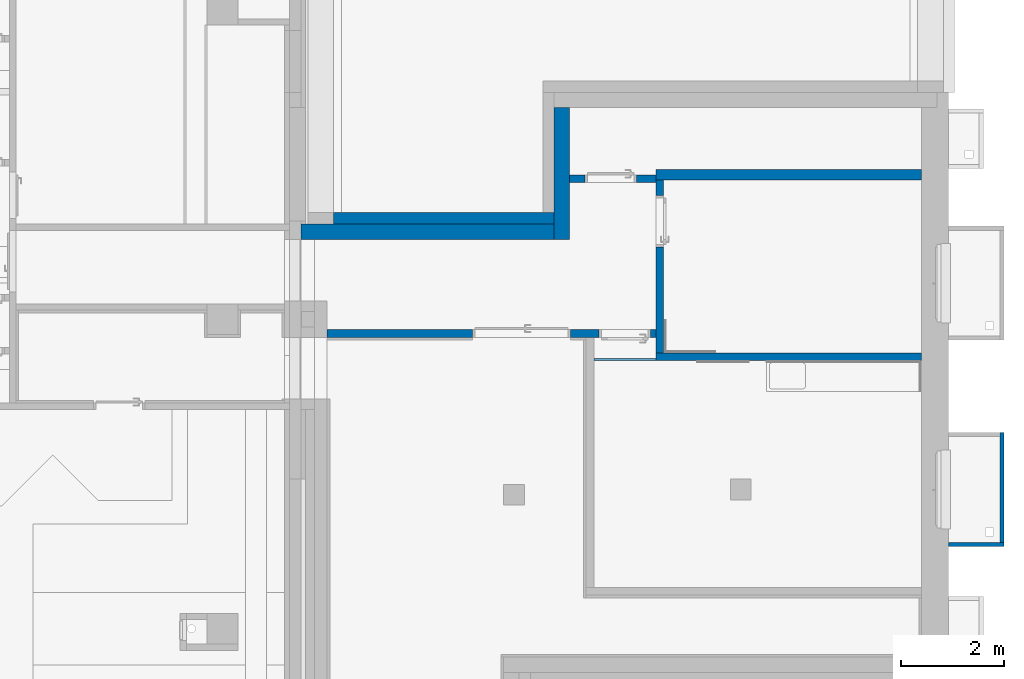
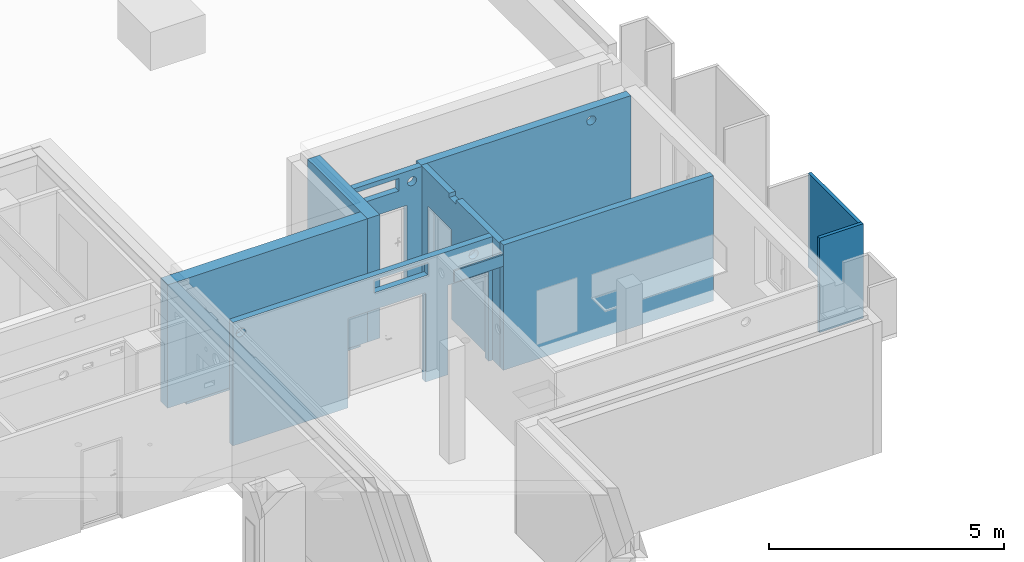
# One storey, part 44 of 84: 11 walls, 12 openings.
"""IFC4 building model written with IfcOpenShell, lengths in metres."""

from ifc_helpers import new_model, entity, si_unit, converted_unit, derived_unit, frame, frame_2d, origin, origin_with_axes, place, context, subcontext, project, spatial, polyline, rectangle, outline, extrude, material, layer, layer_set, layer_usage, element, save


model = new_model("IFC4")

# Units and contexts
model_context = context("Model", 3, precision=1e-05, world=origin())
body_context = subcontext(model_context, "Body", "Model", "MODEL_VIEW")
ifc_project = project(units=[si_unit("LENGTHUNIT", "METRE"), si_unit("AREAUNIT", "SQUARE_METRE"), si_unit("VOLUMEUNIT", "CUBIC_METRE"), si_unit("MASSUNIT", "GRAM", prefix="KILO"), converted_unit("PLANEANGLEUNIT", "DEGREE", entity("IfcPlaneAngleMeasure", 0.0174532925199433), si_unit("PLANEANGLEUNIT", "RADIAN"), dimensions=[0, 0, 0, 0, 0, 0, 0]), derived_unit("THERMALTRANSMITTANCEUNIT", [(si_unit("POWERUNIT", "WATT"), 1), (si_unit("THERMODYNAMICTEMPERATUREUNIT", "KELVIN"), -1), (si_unit("LENGTHUNIT", "METRE"), -2)]), derived_unit("VOLUMETRICFLOWRATEUNIT", [(si_unit("LENGTHUNIT", "METRE"), 3), (converted_unit("TIMEUNIT", "hour", entity("IfcTimeMeasure", 3600.0), si_unit("TIMEUNIT", "SECOND"), dimensions=[0, 0, 1, 0, 0, 0, 0]), -1), (si_unit("LENGTHUNIT", "METRE"), -1)])], contexts=[model_context])

# Site, building, storey
site_placement = place(None, origin())
site = spatial("IfcSite", under=ifc_project, at=site_placement, Name="3. ASŘ", CompositionType="ELEMENT")
building_placement = place(site_placement, origin())
building = spatial("IfcBuilding", under=site, at=building_placement, Name="Pavilon C", CompositionType="ELEMENT")
storey_placement = place(building_placement, frame((0.0, 0.0, -3.3)))
storey = spatial("IfcBuildingStorey", under=building, at=storey_placement, Name="Půdorys 1.PP", CompositionType="ELEMENT", Elevation=-3.3)

# Wall
ifc_material_1 = material(Name="PERIMETR")
ifc_layer_1 = layer(ifc_material_1, 0.22)
ifc_layer_set_1 = layer_set([ifc_layer_1])
ifc_layer_usage_1 = layer_usage(ifc_layer_set_1, "AXIS2", "POSITIVE", 0.0)
wall_1_placement = place(storey_placement, frame((52.105, 15.05, -0.6)))
element("IfcWall", 1, at=wall_1_placement, inside=storey, material=ifc_layer_usage_1, Name="PERIMETR", context=body_context, shape_type="SweptSolid", body=[
    extrude(rectangle(XDim=4.27388830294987, YDim=0.22, at=frame_2d((2.13694415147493, 0.11), x_axis=(1.0, 0.0))), origin_with_axes(), (0.0, 0.0, 1.0), 3.3),
])

# Wall, opening
ifc_material_2 = material(Name="ZELEZOBETONOVÁ KCE")
ifc_layer_2 = layer(ifc_material_2, 0.2)
ifc_layer_set_2 = layer_set([ifc_layer_2])
ifc_layer_usage_2 = layer_usage(ifc_layer_set_2, "AXIS2", "POSITIVE", 0.0)
wall_2_placement = place(storey_placement, frame((58.35, 15.9, -0.3)))
wall_2 = element("IfcWall", 2, at=wall_2_placement, inside=storey, material=ifc_layer_usage_2, Name="ZELEZOBETONOVÁ KCE", context=body_context, shape_type="SweptSolid", body=[
    extrude(rectangle(XDim=5.15, YDim=0.2, at=frame_2d((2.575, 0.1), x_axis=(1.0, 0.0))), origin_with_axes(), (0.0, 0.0, 1.0), 3.2),
])
opening_1_placement = place(wall_2_placement, frame((4.0665263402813, 0.0, 2.7875), z_axis=(0.0, 1.0, 0.0), x_axis=(0.0, 0.0, 1.0)))
element("IfcOpeningElement", 3, at=opening_1_placement, cuts=wall_2, Name="VZT", ObjectType="Opening", context=body_context, shape_type="SweptSolid", body=[
    extrude(outline(polyline([(0.11249999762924, 0.0), (0.100740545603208, 0.000616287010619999), (0.0891099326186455, 0.00245839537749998), (0.0777355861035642, 0.00550614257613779), (0.0667421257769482, 0.00972613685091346), (0.0562499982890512, 0.0150721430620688), (0.0463741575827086, 0.0214855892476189), (0.0372228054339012, 0.0288962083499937), (0.0288962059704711, 0.037222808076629), (0.0214855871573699, 0.0463741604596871), (0.0150721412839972, 0.0562500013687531), (0.00972613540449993, 0.0667421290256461), (0.00550614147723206, 0.0777355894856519), (0.00245839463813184, 0.0891099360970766), (0.00061628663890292, 0.100740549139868), (0.0, 0.112500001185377), (0.000616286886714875, 0.124259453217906), (0.00245839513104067, 0.13589006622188), (0.00550614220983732, 0.147264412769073), (0.00972613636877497, 0.158257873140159), (0.0150721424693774, 0.168750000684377), (0.0214855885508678, 0.178625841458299), (0.0288962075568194, 0.187777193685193), (0.0372228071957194, 0.196103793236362), (0.0463741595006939, 0.203514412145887), (0.0562500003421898, 0.209927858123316), (0.0667421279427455, 0.215273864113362), (0.0777355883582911, 0.219493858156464), (0.089109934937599, 0.22254160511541), (0.100740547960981, 0.224383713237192), (0.1125, 0.225), (0.124259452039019, 0.224383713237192), (0.135890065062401, 0.22254160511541), (0.147264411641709, 0.219493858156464), (0.158257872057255, 0.215273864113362), (0.16874999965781, 0.209927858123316), (0.178625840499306, 0.203514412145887), (0.187777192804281, 0.196103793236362), (0.196103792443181, 0.187777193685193), (0.203514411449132, 0.178625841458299), (0.209927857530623, 0.168750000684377), (0.215273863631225, 0.158257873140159), (0.219493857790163, 0.147264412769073), (0.222541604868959, 0.13589006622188), (0.224383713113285, 0.124259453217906), (0.225, 0.112500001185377), (0.224383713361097, 0.100740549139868), (0.222541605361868, 0.0891099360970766), (0.219493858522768, 0.0777355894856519), (0.2152738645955, 0.0667421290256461), (0.209927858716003, 0.0562500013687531), (0.20351441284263, 0.0463741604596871), (0.196103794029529, 0.037222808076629), (0.187777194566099, 0.0288962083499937), (0.178625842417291, 0.0214855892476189), (0.168750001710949, 0.0150721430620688), (0.158257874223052, 0.00972613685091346), (0.147264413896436, 0.00550614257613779), (0.135890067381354, 0.00245839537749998), (0.124259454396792, 0.000616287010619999), (0.11249999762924, 0.0)])), origin_with_axes(), (0.0, 0.0, 1.0), 0.2),
])

# Walls
ifc_material_3 = material(Name="ZELEZOBETONOVÁ KCE")
ifc_layer_3 = layer(ifc_material_3, 0.3)
ifc_layer_set_3 = layer_set([ifc_layer_3])
ifc_layer_usage_3 = layer_usage(ifc_layer_set_3, "AXIS2", "POSITIVE", 0.0)
wall_3_placement = place(storey_placement, frame((56.6788883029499, 14.75, -0.3), z_axis=(0.0, 0.0, 1.0), x_axis=(0.0, 1.0, 0.0)))
element("IfcWall", 4, at=wall_3_placement, inside=storey, material=ifc_layer_usage_3, Name="ZELEZOBETONOVÁ KCE", context=body_context, shape_type="SweptSolid", body=[
    extrude(rectangle(XDim=2.54999999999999, YDim=0.3, at=frame_2d((1.27499999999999, 0.15), x_axis=(1.0, 0.0))), origin_with_axes(), (0.0, 0.0, 1.0), 3.2),
])
ifc_material_4 = material(Name="POHLEDOVY BETON")
ifc_layer_4 = layer(ifc_material_4, 0.08)
ifc_layer_set_4 = layer_set([ifc_layer_4])
ifc_layer_usage_4 = layer_usage(ifc_layer_set_4, "AXIS2", "POSITIVE", 0.0)
wall_4_placement = place(storey_placement, frame((64.02, 8.79499999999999, 0.88)))
element("IfcWall", 5, at=wall_4_placement, inside=storey, material=ifc_layer_usage_4, Name="STĚNA ANGLICKÉHO DVORKU", context=body_context, shape_type="SweptSolid", body=[
    extrude(rectangle(XDim=1.08, YDim=0.08, at=frame_2d((0.54, 0.04), x_axis=(1.0, 0.0))), origin_with_axes(), (0.0, 0.0, 1.0), 2.45),
])
ifc_material_5 = material(Name="ZELEZOBETONOVÁ KCE")
ifc_layer_5 = layer(ifc_material_5, 0.3)
ifc_layer_set_5 = layer_set([ifc_layer_5])
ifc_layer_usage_5 = layer_usage(ifc_layer_set_5, "AXIS2", "POSITIVE", 0.0)
wall_5_placement = place(storey_placement, frame((51.475, 14.75, -0.3)))
element("IfcWall", 6, at=wall_5_placement, inside=storey, material=ifc_layer_usage_5, Name="ZELEZOBETONOVÁ KCE", context=body_context, shape_type="SweptSolid", body=[
    extrude(rectangle(XDim=4.90388830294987, YDim=0.3, at=frame_2d((2.45194415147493, 0.15), x_axis=(1.0, 0.0))), origin_with_axes(), (0.0, 0.0, 1.0), 3.2),
])
ifc_material_6 = material(Name="POHLEDOVY BETON")
ifc_layer_6 = layer(ifc_material_6, 0.08)
ifc_layer_set_6 = layer_set([ifc_layer_6])
ifc_layer_usage_6 = layer_usage(ifc_layer_set_6, "AXIS2", "POSITIVE", 0.0)
wall_6_placement = place(storey_placement, frame((65.1, 8.87499999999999, 0.88), z_axis=(0.0, 0.0, 1.0), x_axis=(0.0, 1.0, 0.0)))
element("IfcWall", 7, at=wall_6_placement, inside=storey, material=ifc_layer_usage_6, Name="STĚNA ANGLICKÉHO DVORKU", context=body_context, shape_type="SweptSolid", body=[
    extrude(rectangle(XDim=2.13, YDim=0.08, at=frame_2d((1.065, 0.04), x_axis=(1.0, 0.0))), origin_with_axes(), (0.0, 0.0, 1.0), 2.45),
])
ifc_material_7 = material(Name="SDK SVISLA CAST PODHLEDU")
ifc_layer_7 = layer(ifc_material_7, 0.04)
ifc_layer_set_7 = layer_set([ifc_layer_7])
ifc_layer_usage_7 = layer_usage(ifc_layer_set_7, "AXIS2", "POSITIVE", 0.0)
wall_7_placement = place(storey_placement, frame((57.15, 12.4, 2.4), z_axis=(0.0, 0.0, 1.0), x_axis=(1.0, 1.51582450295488e-15, 0.0)))
element("IfcWall", 8, at=wall_7_placement, inside=storey, material=ifc_layer_usage_7, Name="SDK SVISLA CAST PODHLEDU", context=body_context, shape_type="SweptSolid", body=[
    extrude(rectangle(XDim=1.2, YDim=0.04, at=frame_2d((0.6, 0.02), x_axis=(1.0, 0.0))), origin_with_axes(), (0.0, 0.0, 1.0), 0.3),
])
ifc_material_8 = material(Name="SDK - 1 KCE + DVOJITÉ OPLÁŠTĚNÍ")
ifc_layer_8 = layer(ifc_material_8, 0.15)
ifc_layer_set_8 = layer_set([ifc_layer_8])
ifc_layer_usage_8 = layer_usage(ifc_layer_set_8, "AXIS2", "POSITIVE", 0.0)
wall_8_placement = place(storey_placement, frame((63.5, 12.55, -0.3), z_axis=(0.0, 0.0, 1.0), x_axis=(-1.0, 0.0, 0.0)))
element("IfcWall", 9, at=wall_8_placement, inside=storey, material=ifc_layer_usage_8, Name="SDK - 1 KCE + DVOJITÉ OPLÁŠTĚNÍ", context=body_context, shape_type="SweptSolid", body=[
    extrude(rectangle(XDim=5.15, YDim=0.15, at=frame_2d((2.575, 0.075), x_axis=(1.0, 0.0))), origin_with_axes(), (0.0, 0.0, 1.0), 3.25),
])

# Wall, openings
ifc_material_9 = material(Name="SDK - 1 KCE + DVOJITÉ OPLÁŠTĚNÍ")
ifc_layer_9 = layer(ifc_material_9, 0.15)
ifc_layer_set_9 = layer_set([ifc_layer_9])
ifc_layer_usage_9 = layer_usage(ifc_layer_set_9, "AXIS2", "POSITIVE", 0.0)
wall_9_placement = place(storey_placement, frame((58.5, 12.55, -0.3), z_axis=(0.0, 0.0, 1.0), x_axis=(0.0, 1.0, 0.0)))
wall_9 = element("IfcWall", 10, at=wall_9_placement, inside=storey, material=ifc_layer_usage_9, Name="SDK - 1 KCE + DVOJITÉ OPLÁŠTĚNÍ", context=body_context, shape_type="SweptSolid", body=[
    extrude(rectangle(XDim=3.35, YDim=0.15, at=frame_2d((1.675, 0.075), x_axis=(1.0, 0.0))), origin_with_axes(), (0.0, 0.0, 1.0), 3.2),
])
opening_2_placement = place(wall_9_placement, frame((2.05, 0.0, 0.0), z_axis=(0.0, 1.0, 0.0), x_axis=(0.0, 0.0, 1.0)))
element("IfcOpeningElement", 11, at=opening_2_placement, cuts=wall_9, Name="Dveřní otvor", ObjectType="Opening", context=body_context, shape_type="SweptSolid", body=[
    extrude(outline(polyline([(0.0, 1.0), (2.32, 1.0), (2.32, 0.0), (0.0, 0.0), (0.0, 1.0)])), origin_with_axes(), (0.0, 0.0, 1.0), 0.15),
])
opening_3_placement = place(wall_9_placement, frame((0.707526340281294, 0.15, 2.7875), z_axis=(0.0, -1.0, 0.0), x_axis=(0.0, 0.0, 1.0)))
element("IfcOpeningElement", 12, at=opening_3_placement, cuts=wall_9, Name="VZT", ObjectType="Opening", context=body_context, shape_type="SweptSolid", body=[
    extrude(outline(polyline([(0.112499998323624, 0.0), (0.100740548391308, 0.000616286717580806), (0.0891099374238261, 0.00245839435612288), (0.0777355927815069, 0.00550614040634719), (0.0667421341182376, 0.00972613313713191), (0.0562500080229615, 0.0150721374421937), (0.0463741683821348, 0.0214855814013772), (0.0372228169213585, 0.0288961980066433), (0.0288962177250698, 0.0372227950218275), (0.0214855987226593, 0.0463741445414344), (0.015072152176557, 0.0562499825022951), (0.00972614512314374, 0.0667421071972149), (0.00550614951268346, 0.0777355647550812), (0.00245840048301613, 0.0891099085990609), (0.00061628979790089, 0.100740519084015), (0.0, 0.112499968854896), (0.000616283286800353, 0.124259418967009), (0.00245838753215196, 0.135890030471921), (0.00550613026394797, 0.147264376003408), (0.00972611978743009, 0.158257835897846), (0.0150721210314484, 0.1687499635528), (0.0214855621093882, 0.178625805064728), (0.0288961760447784, 0.187777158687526), (0.0372227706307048, 0.19610376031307), (0.0463741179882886, 0.203514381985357), (0.0562499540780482, 0.2099278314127), (0.0667420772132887, 0.215273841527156), (0.0777355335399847, 0.219493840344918), (0.0891098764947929, 0.222541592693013), (0.100740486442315, 0.224383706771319), (0.112499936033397, 0.225), (0.124259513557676, 0.224383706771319), (0.135890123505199, 0.222541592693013), (0.147264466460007, 0.219493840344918), (0.158257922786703, 0.215273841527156), (0.168750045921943, 0.2099278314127), (0.178625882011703, 0.203514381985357), (0.187777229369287, 0.19610376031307), (0.196103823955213, 0.187777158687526), (0.203514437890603, 0.178625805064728), (0.209927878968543, 0.1687499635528), (0.215273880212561, 0.158257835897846), (0.219493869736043, 0.147264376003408), (0.222541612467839, 0.135890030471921), (0.224383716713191, 0.124259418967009), (0.224999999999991, 0.112499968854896), (0.22438371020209, 0.100740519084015), (0.222541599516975, 0.0891099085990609), (0.219493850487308, 0.0777355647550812), (0.215273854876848, 0.0667421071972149), (0.209927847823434, 0.0562499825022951), (0.203514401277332, 0.0463741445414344), (0.196103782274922, 0.0372227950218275), (0.187777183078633, 0.0288961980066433), (0.178625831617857, 0.0214855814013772), (0.16874999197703, 0.0150721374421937), (0.158257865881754, 0.00972613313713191), (0.147264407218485, 0.00550614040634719), (0.135890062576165, 0.00245839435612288), (0.124259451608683, 0.000616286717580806), (0.112499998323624, 0.0)])), origin_with_axes(), (0.0, 0.0, 1.0), 0.15),
])
opening_4_placement = place(wall_9_placement, frame((2.15000000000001, 0.15, 3.09), z_axis=(0.0, -1.0, 0.0), x_axis=(0.0, 0.0, 1.0)))
element("IfcOpeningElement", 13, at=opening_4_placement, cuts=wall_9, Name="ZTI", ObjectType="Opening", context=body_context, shape_type="SweptSolid", body=[
    extrude(outline(polyline([(0.0, 0.3), (0.11, 0.3), (0.11, 0.0), (0.0, 0.0), (0.0, 0.3)])), origin_with_axes(), (0.0, 0.0, 1.0), 0.15),
])

ifc_material_10 = material(Name="SDK - 1 KCE + DVOJITÉ OPLÁŠTĚNÍ")
ifc_layer_10 = layer(ifc_material_10, 0.15)
ifc_layer_set_10 = layer_set([ifc_layer_10])
ifc_layer_usage_10 = layer_usage(ifc_layer_set_10, "AXIS2", "POSITIVE", 0.0)
wall_10_placement = place(storey_placement, frame((58.35, 13.0, -0.3), z_axis=(0.0, 0.0, 1.0), x_axis=(-1.0, 0.0, 0.0)))
wall_10 = element("IfcWall", 14, at=wall_10_placement, inside=storey, material=ifc_layer_usage_10, Name="SDK - 1 KCE + DVOJITÉ OPLÁŠTĚNÍ", context=body_context, shape_type="SweptSolid", body=[
    extrude(rectangle(XDim=6.36999999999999, YDim=0.15, at=frame_2d((3.18499999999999, 0.075), x_axis=(1.0, 0.0))), origin_with_axes(), (0.0, 0.0, 1.0), 3.2),
])
opening_5_placement = place(wall_10_placement, frame((1.1, 0.15, 0.0), z_axis=(0.0, -1.0, 0.0), x_axis=(0.0, 0.0, 1.0)))
element("IfcOpeningElement", 15, at=opening_5_placement, cuts=wall_10, Name="Dveřní otvor", ObjectType="Opening", context=body_context, shape_type="SweptSolid", body=[
    extrude(outline(polyline([(0.0, 1.0), (2.32, 1.0), (2.32, 0.0), (0.0, 0.0), (0.0, 1.0)])), origin_with_axes(), (0.0, 0.0, 1.0), 0.15),
])
opening_6_placement = place(wall_10_placement, frame((1.65, 0.0, 0.0), z_axis=(0.0, 1.0, 0.0), x_axis=(0.0, 0.0, 1.0)))
element("IfcOpeningElement", 16, at=opening_6_placement, cuts=wall_10, Name="Dveřní otvor", ObjectType="Opening", context=body_context, shape_type="SweptSolid", body=[
    extrude(outline(polyline([(0.0, 1.9), (2.32, 1.9), (2.32, 0.0), (0.0, 0.0), (0.0, 1.9)])), origin_with_axes(), (0.0, 0.0, 1.0), 0.15),
])
opening_7_placement = place(wall_10_placement, frame((1.59002042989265, 0.0, 2.76), z_axis=(0.0, 1.0, 0.0), x_axis=(0.0, 0.0, 1.0)))
element("IfcOpeningElement", 17, at=opening_7_placement, cuts=wall_10, Name="VZT", ObjectType="Opening", context=body_context, shape_type="SweptSolid", body=[
    extrude(outline(polyline([(0.0, 1.325), (0.325, 1.325), (0.325, 0.0), (0.0, 0.0), (0.0, 1.325)])), origin_with_axes(), (0.0, 0.0, 1.0), 0.15),
])
opening_8_placement = place(wall_10_placement, frame((0.353467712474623, 0.0, 2.7875), z_axis=(0.0, 1.0, 0.0), x_axis=(0.0, 0.0, 1.0)))
element("IfcOpeningElement", 18, at=opening_8_placement, cuts=wall_10, Name="VZT", ObjectType="Opening", context=body_context, shape_type="SweptSolid", body=[
    extrude(outline(polyline([(0.1125, 0.225), (0.124259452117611, 0.224383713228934), (0.135890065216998, 0.222541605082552), (0.147264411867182, 0.219493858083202), (0.158257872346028, 0.215273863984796), (0.16875, 0.209927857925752), (0.178625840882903, 0.203514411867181), (0.187777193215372, 0.196103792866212), (0.196103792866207, 0.18777719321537), (0.203514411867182, 0.178625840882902), (0.209927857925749, 0.16875), (0.215273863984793, 0.158257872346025), (0.219493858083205, 0.147264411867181), (0.222541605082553, 0.135890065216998), (0.224383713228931, 0.124259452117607), (0.225, 0.1125), (0.224383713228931, 0.100740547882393), (0.222541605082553, 0.0891099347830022), (0.219493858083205, 0.0777355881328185), (0.215273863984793, 0.0667421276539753), (0.209927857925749, 0.05625), (0.203514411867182, 0.0463741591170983), (0.196103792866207, 0.0372228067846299), (0.187777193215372, 0.0288962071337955), (0.178625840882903, 0.0214855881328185), (0.16875, 0.0150721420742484), (0.158257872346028, 0.00972613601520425), (0.147264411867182, 0.00550614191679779), (0.135890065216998, 0.00245839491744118), (0.124259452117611, 0.00061628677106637), (0.1125, 0.0), (0.100740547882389, 0.00061628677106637), (0.089109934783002, 0.00245839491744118), (0.0777355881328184, 0.00550614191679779), (0.0667421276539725, 0.00972613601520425), (0.05625, 0.0150721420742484), (0.0463741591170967, 0.0214855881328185), (0.0372228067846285, 0.0288962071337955), (0.0288962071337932, 0.0372228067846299), (0.0214855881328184, 0.0463741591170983), (0.0150721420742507, 0.05625), (0.00972613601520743, 0.0667421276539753), (0.00550614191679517, 0.0777355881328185), (0.00245839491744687, 0.0891099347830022), (0.000616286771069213, 0.100740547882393), (0.0, 0.1125), (0.000616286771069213, 0.124259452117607), (0.00245839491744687, 0.135890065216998), (0.00550614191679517, 0.147264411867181), (0.00972613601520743, 0.158257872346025), (0.0150721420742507, 0.16875), (0.0214855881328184, 0.178625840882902), (0.0288962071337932, 0.18777719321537), (0.0372228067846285, 0.196103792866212), (0.0463741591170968, 0.203514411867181), (0.05625, 0.209927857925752), (0.0667421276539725, 0.215273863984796), (0.0777355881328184, 0.219493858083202), (0.089109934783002, 0.222541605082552), (0.100740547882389, 0.224383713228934), (0.1125, 0.225)])), origin_with_axes(), (0.0, 0.0, 1.0), 0.15),
])
opening_9_placement = place(wall_10_placement, frame((6.0664062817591, 0.0, 2.7675), z_axis=(0.0, 1.0, 0.0), x_axis=(0.0, 0.0, 1.0)))
element("IfcOpeningElement", 19, at=opening_9_placement, cuts=wall_10, Name="VZT", ObjectType="Opening", context=body_context, shape_type="SweptSolid", body=[
    extrude(outline(polyline([(0.112499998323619, 0.225), (0.124259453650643, 0.2243837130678), (0.135890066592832, 0.222541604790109), (0.147264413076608, 0.219493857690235), (0.158257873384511, 0.21527386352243), (0.168750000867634, 0.209927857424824), (0.178625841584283, 0.203514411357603), (0.187777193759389, 0.196103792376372), (0.196103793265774, 0.187777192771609), (0.203514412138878, 0.178625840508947), (0.209927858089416, 0.168749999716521), (0.215273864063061, 0.158257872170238), (0.219493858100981, 0.147264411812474), (0.222541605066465, 0.13589006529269), (0.224383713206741, 0.124259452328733), (0.225, 0.112500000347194), (0.224383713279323, 0.100740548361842), (0.222541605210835, 0.0891099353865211), (0.219493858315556, 0.0777355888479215), (0.21527386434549, 0.0667421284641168), (0.209927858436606, 0.0562500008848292), (0.203514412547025, 0.0463741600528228), (0.196103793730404, 0.0372228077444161), (0.187777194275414, 0.0288962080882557), (0.178625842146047, 0.0214855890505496), (0.168750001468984, 0.0150721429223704), (0.158257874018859, 0.0097261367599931), (0.147264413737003, 0.00550614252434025), (0.135890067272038, 0.00245839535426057), (0.124259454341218, 0.000616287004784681), (0.11249999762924, 0.0), (0.100740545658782, 0.000616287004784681), (0.089109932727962, 0.00245839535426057), (0.0777355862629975, 0.00550614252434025), (0.0667421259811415, 0.0097261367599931), (0.0562499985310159, 0.0150721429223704), (0.0463741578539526, 0.0214855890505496), (0.0372228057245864, 0.0288962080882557), (0.0288962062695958, 0.0372228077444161), (0.0214855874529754, 0.0463741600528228), (0.015072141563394, 0.0562500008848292), (0.0097261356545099, 0.0667421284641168), (0.00550614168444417, 0.0777355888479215), (0.00245839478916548, 0.0891099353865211), (0.000616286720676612, 0.100740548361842), (0.0, 0.112500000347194), (0.000616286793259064, 0.124259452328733), (0.00245839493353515, 0.13589006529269), (0.00550614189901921, 0.147264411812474), (0.0097261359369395, 0.158257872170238), (0.0150721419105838, 0.168749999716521), (0.0214855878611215, 0.178625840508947), (0.0288962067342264, 0.187777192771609), (0.0372228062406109, 0.196103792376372), (0.0463741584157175, 0.203514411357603), (0.0562499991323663, 0.209927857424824), (0.0667421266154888, 0.21527386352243), (0.0777355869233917, 0.219493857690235), (0.0891099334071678, 0.222541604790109), (0.100740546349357, 0.2243837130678), (0.112499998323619, 0.225)])), origin_with_axes(), (0.0, 0.0, 1.0), 0.15),
])

ifc_material_11 = material(Name="SDK - 1 KCE + DVOJITÉ OPLÁŠTĚNÍ")
ifc_layer_11 = layer(ifc_material_11, 0.15)
ifc_layer_set_11 = layer_set([ifc_layer_11])
ifc_layer_usage_11 = layer_usage(ifc_layer_set_11, "AXIS2", "POSITIVE", 0.0)
wall_11_placement = place(storey_placement, frame((56.6788883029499, 15.85, -0.3)))
wall_11 = element("IfcWall", 20, at=wall_11_placement, inside=storey, material=ifc_layer_usage_11, Name="SDK - 1 KCE + DVOJITÉ OPLÁŠTĚNÍ", context=body_context, shape_type="SweptSolid", body=[
    extrude(rectangle(XDim=1.67111169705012, YDim=0.15, at=frame_2d((0.835555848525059, 0.075), x_axis=(1.0, 0.0))), origin_with_axes(), (0.0, 0.0, 1.0), 3.2),
])
opening_10_placement = place(wall_11_placement, frame((1.3, 0.15, 0.0), z_axis=(0.0, -1.0, 0.0), x_axis=(0.0, 0.0, 1.0)))
element("IfcOpeningElement", 21, at=opening_10_placement, cuts=wall_11, Name="Dveřní otvor", ObjectType="Opening", context=body_context, shape_type="SweptSolid", body=[
    extrude(outline(polyline([(0.0, 1.0), (2.32, 1.0), (2.32, 0.0), (0.0, 0.0), (0.0, 1.0)])), origin_with_axes(), (0.0, 0.0, 1.0), 0.15),
])
opening_11_placement = place(wall_11_placement, frame((1.53972447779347, 0.15, 2.7875), z_axis=(0.0, -1.0, 0.0), x_axis=(0.0, 0.0, 1.0)))
element("IfcOpeningElement", 22, at=opening_11_placement, cuts=wall_11, Name="VZT", ObjectType="Opening", context=body_context, shape_type="SweptSolid", body=[
    extrude(outline(polyline([(0.112499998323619, 0.225), (0.124259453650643, 0.2243837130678), (0.135890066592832, 0.222541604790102), (0.147264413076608, 0.219493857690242), (0.158257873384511, 0.21527386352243), (0.168750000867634, 0.209927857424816), (0.178625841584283, 0.203514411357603), (0.187777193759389, 0.196103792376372), (0.196103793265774, 0.187777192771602), (0.203514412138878, 0.178625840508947), (0.209927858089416, 0.168749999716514), (0.215273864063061, 0.158257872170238), (0.219493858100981, 0.147264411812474), (0.222541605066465, 0.13589006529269), (0.224383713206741, 0.124259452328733), (0.225, 0.112500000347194), (0.224383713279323, 0.100740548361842), (0.222541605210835, 0.0891099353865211), (0.219493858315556, 0.0777355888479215), (0.21527386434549, 0.0667421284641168), (0.209927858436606, 0.0562500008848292), (0.203514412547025, 0.0463741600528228), (0.196103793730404, 0.0372228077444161), (0.187777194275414, 0.0288962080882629), (0.178625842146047, 0.0214855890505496), (0.168750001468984, 0.0150721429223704), (0.158257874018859, 0.00972613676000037), (0.147264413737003, 0.00550614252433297), (0.135890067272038, 0.00245839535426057), (0.124259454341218, 0.000616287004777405), (0.11249999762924, 0.0), (0.100740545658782, 0.000616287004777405), (0.089109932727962, 0.00245839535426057), (0.0777355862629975, 0.00550614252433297), (0.0667421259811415, 0.00972613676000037), (0.0562499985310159, 0.0150721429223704), (0.0463741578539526, 0.0214855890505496), (0.0372228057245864, 0.0288962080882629), (0.0288962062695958, 0.0372228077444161), (0.0214855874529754, 0.0463741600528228), (0.015072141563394, 0.0562500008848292), (0.0097261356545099, 0.0667421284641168), (0.00550614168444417, 0.0777355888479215), (0.00245839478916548, 0.0891099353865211), (0.000616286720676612, 0.100740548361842), (0.0, 0.112500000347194), (0.000616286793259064, 0.124259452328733), (0.00245839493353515, 0.13589006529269), (0.00550614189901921, 0.147264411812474), (0.0097261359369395, 0.158257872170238), (0.0150721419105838, 0.168749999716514), (0.0214855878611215, 0.178625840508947), (0.0288962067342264, 0.187777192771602), (0.0372228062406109, 0.196103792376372), (0.0463741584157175, 0.203514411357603), (0.0562499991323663, 0.209927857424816), (0.0667421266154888, 0.21527386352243), (0.0777355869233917, 0.219493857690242), (0.0891099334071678, 0.222541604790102), (0.100740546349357, 0.2243837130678), (0.112499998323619, 0.225)])), origin_with_axes(), (0.0, 0.0, 1.0), 0.15),
])
opening_12_placement = place(wall_11_placement, frame((0.0, 0.0, 2.76), z_axis=(0.0, 1.0, 0.0), x_axis=(0.0, 0.0, 1.0)))
element("IfcOpeningElement", 23, at=opening_12_placement, cuts=wall_11, Name="VZT", ObjectType="Opening", context=body_context, shape_type="SweptSolid", body=[
    extrude(outline(polyline([(0.0, 1.1), (0.325, 1.1), (0.325, 0.0), (0.0, 0.0), (0.0, 1.1)])), origin_with_axes(), (0.0, 0.0, 1.0), 0.15),
])

save(model, "model.ifc")
